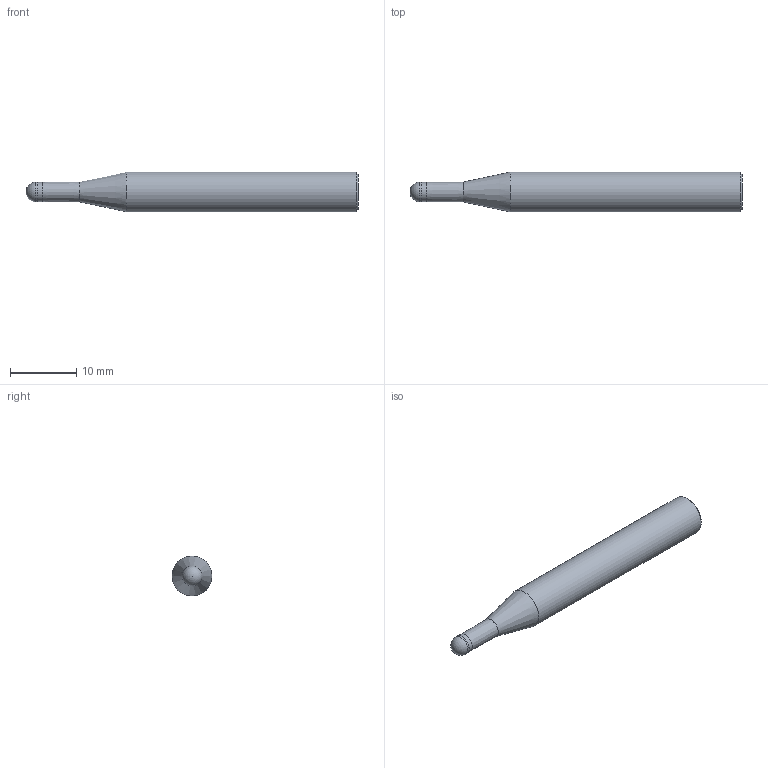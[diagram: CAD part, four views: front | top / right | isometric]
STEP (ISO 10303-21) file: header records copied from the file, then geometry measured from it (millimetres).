
FILE_DESCRIPTION(/* description */ (''),/* implementation_level */ '2;1');
FILE_NAME(/* name */ 'HGXPB2030-8-T0.4 0650.stp',/* time_stamp */ '2026-01-23T15:01:31+08:00',/* author */ (''),/* organization */ (''),/* preprocessor_version */ 'ST-DEVELOPER v16',/* originating_system */ 'SIEMENS PLM Software NX 10.0',/* authorisation */ '');
FILE_SCHEMA (('CONFIG_CONTROL_DESIGN'));
Length unit declared in the file: millimetre
Products named in the file (1): HGXPB2030-8-T0.4 0650_dxf
Bounding box: 50 x 6 x 6 mm (x, y, z)
Volume: 1153.5 mm3; surface area: 859.6 mm2
Topology: 1 solids, 1 shells, 9 faces, 19 edges, 12 vertices
Faces by surface type: cylinder 3, cone 3, plane 2, sphere 1
Full cylindrical faces by diameter (mm): 2.9 x1, 3 x1, 6 x1
Entity records: 264 total; most frequent: CARTESIAN_POINT 35, DIRECTION 34, AXIS2_PLACEMENT_3D 17, EDGE_LOOP 16, ORIENTED_EDGE 16, FACE_BOUND 14, ADVANCED_FACE 9, VERTEX_POINT 8
